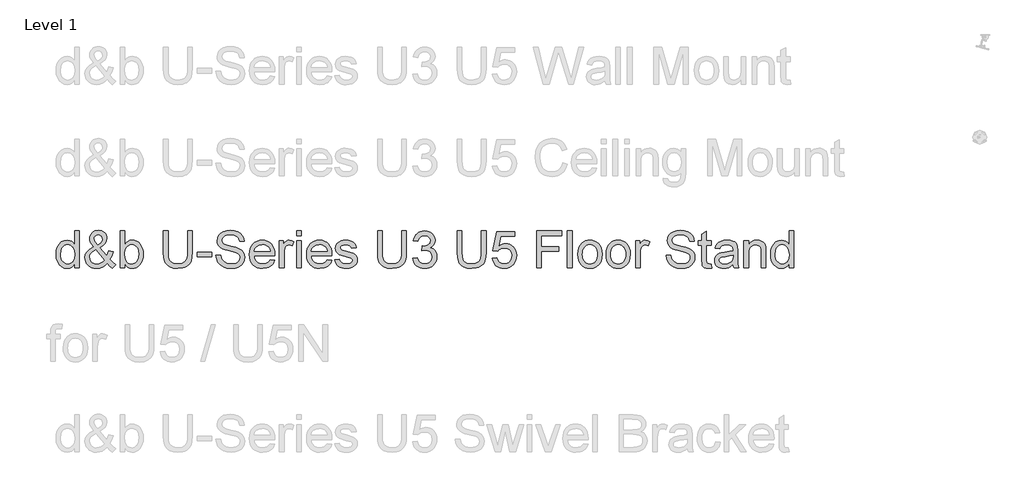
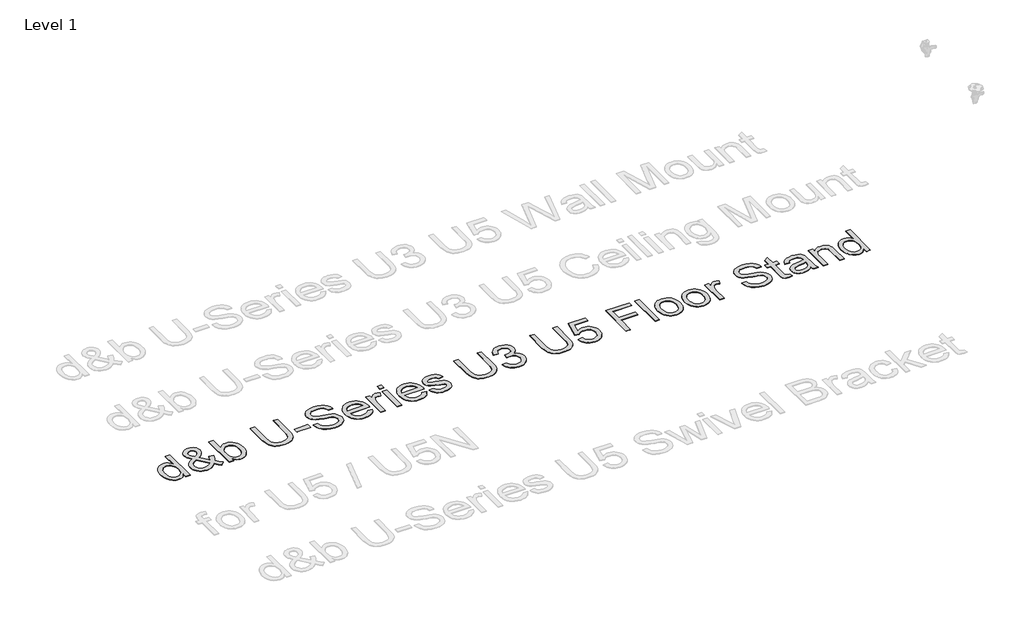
# One storey, part 10 of 29: 1 proxy.
"""IFC4 building model written with IfcOpenShell, lengths in millimetres."""

from ifc_helpers import new_model, si_unit, origin, origin_with_axes, place, context, project, spatial, polyline, outline, extrude, element, save

model = new_model("IFC4")

# Units and contexts
model_context = context("Model", 3, world=origin())
ifc_project = project(units=[si_unit("LENGTHUNIT", "METRE", prefix="MILLI")], contexts=[model_context])

# Site, building, storey
site = spatial("IfcSite", under=ifc_project)
building = spatial("IfcBuilding", under=site)
storey = spatial("IfcBuildingStorey", under=building, Name="Level 1", Elevation=0.0)

# Proxy
placement = place(None, origin())
element("IfcBuildingElementProxy", 1, Name="400mm Arial", ObjectType="400mm Arial", at=placement, inside=storey, context=model_context, shape_type="SweptSolid", body=[
    extrude(outline(polyline([(-20788.4119982, -1835.6363385), (-20788.4119982, -1788.2531375), (-20803.4399777, -1811.7301402), (-20821.6440051, -1828.4994278), (-20843.0240804, -1838.5610004), (-20867.5802036, -1841.9148579), (-20900.051921, -1837.0588156), (-20929.7767862, -1822.4906885), (-20954.9399147, -1799.2282837), (-20973.7264219, -1768.2894079), (-20985.4250694, -1730.9248599), (-20989.3246185, -1688.3854386), (-20985.7316377, -1646.3733147), (-20974.9526952, -1608.4324183), (-20957.0000539, -1576.7209903), (-20931.8859763, -1553.3972718), (-20901.5111863, -1539.049874), (-20867.7764073, -1534.2674081), (-20843.20189, -1537.6887106), (-20821.4723268, -1547.9526183), (-20803.0537016, -1563.6857049), (-20788.4119982, -1583.5145445), (-20788.4119982, -1433.8110979), (-20738.1838431, -1433.8110979), (-20738.1838431, -1835.6363385), (-20788.4119982, -1835.6363385)]), holes=[polyline([(-20939.0964634, -1688.1892348), (-20937.6801177, -1712.5460886), (-20933.4310807, -1733.6226612), (-20926.3493523, -1751.4189528), (-20916.4349325, -1765.9349632), (-20891.7377879, -1785.2487679), (-20877.8625053, -1790.0772191), (-20862.9694159, -1791.6867028), (-20848.0058157, -1790.1507955), (-20834.2133066, -1785.5430735), (-20810.1415614, -1767.1121855), (-20800.6348775, -1753.2031804), (-20793.844389, -1736.0506824), (-20788.4119982, -1692.0152076), (-20793.9424909, -1643.8717172), (-20800.8556067, -1625.336596), (-20810.5339688, -1610.4925575), (-20822.235682, -1599.1188724), (-20835.2188507, -1590.9948117), (-20849.4834751, -1586.1203753), (-20865.0295551, -1584.4955631), (-20880.2169501, -1586.0559959), (-20894.0922327, -1590.7372943), (-20906.6554028, -1598.5394583), (-20917.9064605, -1609.4624879), (-20927.1770868, -1623.7455063), (-20933.7989627, -1641.627637), (-20939.0964634, -1688.1892348)])]), origin_with_axes(), (0.0, 0.0, 1.0), 5.0),
    extrude(outline(polyline([(-20432.4003287, -1785.9967946), (-20457.9313392, -1810.4609473), (-20485.6696416, -1827.9353421), (-20515.664287, -1838.4199789), (-20547.9643262, -1841.9148579), (-20577.2722584, -1839.3274212), (-20603.3918801, -1831.5651111), (-20626.3231911, -1818.6279276), (-20646.0661915, -1800.5158707), (-20658.8991418, -1783.1457092), (-20668.0655348, -1764.7822662), (-20673.5653707, -1745.4255419), (-20675.3986493, -1725.0755362), (-20669.5002746, -1689.881492), (-20651.8051507, -1658.2681659), (-20622.3868538, -1630.2600833), (-20581.3189604, -1605.8817698), (-20603.2324646, -1577.5303307), (-20616.3903773, -1555.0650035), (-20622.975465, -1535.8860888), (-20625.1704942, -1517.3938872), (-20623.4414488, -1499.8397847), (-20618.2543127, -1483.4751673), (-20609.6090858, -1468.300035), (-20597.5057682, -1454.3143878), (-20582.784357, -1442.5973462), (-20566.2848495, -1434.2280308), (-20548.0072457, -1429.2064416), (-20527.9515456, -1427.5325785), (-20508.8032878, -1429.1328652), (-20491.4821772, -1433.9337252), (-20475.9882138, -1441.9351586), (-20462.3213977, -1453.1371654), (-20451.1623105, -1466.5832523), (-20443.1915339, -1481.3169262), (-20438.409068, -1497.3381871), (-20436.8149127, -1514.647035), (-20441.5360649, -1542.6305921), (-20455.6995218, -1568.5049591), (-20479.3052831, -1592.270136), (-20512.353349, -1613.9261227), (-20439.6598668, -1704.4741445), (-20427.2745063, -1678.5997775), (-20417.9793545, -1648.8503868), (-20367.7511994, -1659.7396939), (-20383.2022432, -1706.2645035), (-20403.2640747, -1742.4395664), (-20374.7164319, -1775.7451497), (-20342.6371219, -1803.2627229), (-20380.3082382, -1841.9148579), (-20405.9373505, -1818.4685121), (-20432.4003287, -1785.9967946)]), holes=[polyline([(-20537.7617322, -1582.2392202), (-20511.4949577, -1565.5741659), (-20496.4608468, -1551.091878), (-20489.3975125, -1537.0019976), (-20487.0430678, -1521.5141656), (-20490.1455392, -1503.9661944), (-20499.4529537, -1489.9744158), (-20513.4202068, -1480.8141542), (-20530.5021941, -1477.7607336), (-20547.9520634, -1480.7896287), (-20562.2381476, -1489.876314), (-20571.7662912, -1503.3285323), (-20574.9423391, -1519.4540264), (-20570.6258571, -1537.8481261), (-20557.578309, -1558.3023651), (-20537.7617322, -1582.2392202)]), polyline([(-20466.0492686, -1749.7972063), (-20555.7143735, -1637.8629779), (-20589.9641873, -1659.7151684), (-20610.8966728, -1679.9486782), (-20621.6020389, -1699.2747456), (-20625.1704942, -1718.4046094), (-20620.2899264, -1742.0962099), (-20605.648223, -1766.6707271), (-20594.8692805, -1777.6152165), (-20582.0547244, -1785.4327089), (-20567.2045545, -1790.1232043), (-20550.3187709, -1791.6867028), (-20527.5959264, -1788.7681723), (-20504.1618433, -1780.0125808), (-20482.7388484, -1766.6216762), (-20466.0492686, -1749.7972063)])]), origin_with_axes(), (0.0, 0.0, 1.0), 5.0),
    extrude(outline(polyline([(-20242.1808118, -1835.6363385), (-20292.4089668, -1835.6363385), (-20292.4089668, -1433.8110979), (-20242.1808118, -1433.8110979), (-20242.1808118, -1582.8278314), (-20225.6629102, -1561.5826462), (-20207.011293, -1546.4075139), (-20186.2259603, -1537.3024345), (-20163.306912, -1534.2674081), (-20137.432545, -1537.0019976), (-20112.9806551, -1545.2057661), (-20091.3491937, -1558.3636787), (-20073.9361126, -1575.9607008), (-20060.2876906, -1597.8251541), (-20049.9502065, -1623.7853602), (-20043.4386952, -1652.7621987), (-20041.2681915, -1683.676549), (-20043.5153373, -1719.3488398), (-20050.2567749, -1750.729174), (-20061.4925041, -1777.8175516), (-20077.2225251, -1800.6139726), (-20096.1040685, -1818.6831099), (-20116.7943651, -1831.5896366), (-20139.2934148, -1839.3335526), (-20163.6012176, -1841.9148579), (-20187.274424, -1838.5855258), (-20208.2620918, -1828.5975297), (-20226.5642211, -1811.9508694), (-20242.1808118, -1788.645545), (-20242.1808118, -1835.6363385)]), holes=[polyline([(-20242.1808118, -1686.0309938), (-20238.7472465, -1727.9204903), (-20228.4465506, -1756.2719294), (-20216.2757879, -1771.7658928), (-20202.1307252, -1782.8330095), (-20186.0113625, -1789.4732795), (-20167.9176997, -1791.6867028), (-20152.8958515, -1790.0557593), (-20138.9285984, -1785.1629288), (-20126.0159404, -1777.0082112), (-20114.1578774, -1765.5916066), (-20104.2434577, -1750.9437719), (-20097.1617293, -1733.0953637), (-20092.9126922, -1712.0463822), (-20091.4963465, -1687.7968274), (-20096.9287373, -1641.8361035), (-20103.7192258, -1624.0428776), (-20113.2259097, -1609.7077425), (-20124.6578427, -1598.677414), (-20137.2240785, -1590.798608), (-20150.9246172, -1586.0713243), (-20165.7594586, -1584.4955631), (-20180.7813068, -1586.1265066), (-20194.7485599, -1591.0193372), (-20207.6612179, -1599.1740547), (-20219.5192809, -1610.5906593), (-20229.4337006, -1625.0913413), (-20236.515429, -1642.498291), (-20240.7644661, -1662.8115085), (-20242.1808118, -1686.0309938)])]), origin_with_axes(), (0.0, 0.0, 1.0), 5.0),
    extrude(outline(polyline([(-19557.8221989, -1433.8110979), (-19507.5940438, -1433.8110979), (-19507.5940438, -1665.6258058), (-19511.0030836, -1719.9129256), (-19521.2302031, -1761.7165829), (-19529.4155775, -1778.6698116), (-19540.3355414, -1793.9675712), (-19570.3792376, -1819.5966835), (-19589.5213641, -1829.3608848), (-19611.4348683, -1836.3353143), (-19663.5760097, -1841.9148579), (-19714.576717, -1837.0588156), (-19755.3503048, -1822.4906885), (-19771.9049946, -1811.6902863), (-19785.9090359, -1798.7132489), (-19797.3624287, -1783.5595764), (-19806.2651729, -1766.2292688), (-19817.706303, -1722.6597778), (-19821.520013, -1665.6258058), (-19821.520013, -1433.8110979), (-19771.2918579, -1433.8110979), (-19771.2918579, -1663.8599722), (-19768.8147858, -1708.999093), (-19761.3835695, -1740.4284782), (-19747.9190885, -1762.1948295), (-19727.3422222, -1778.3448491), (-19700.5113621, -1788.3512394), (-19668.2848993, -1791.6867028), (-19640.6017791, -1790.0373652), (-19617.1983529, -1785.0893524), (-19598.0746205, -1776.8426643), (-19583.230582, -1765.297301), (-19572.1144144, -1749.0614423), (-19564.1742947, -1726.7432679), (-19559.4102228, -1698.3427779), (-19557.8221989, -1663.8599722), (-19557.8221989, -1433.8110979)])), origin_with_axes(), (0.0, 0.0, 1.0), 5.0),
    extrude(outline(polyline([(-19451.0873693, -1716.3444702), (-19451.0873693, -1666.1163151), (-19294.1243847, -1666.1163151), (-19294.1243847, -1716.3444702), (-19451.0873693, -1716.3444702)])), origin_with_axes(), (0.0, 0.0, 1.0), 5.0),
    extrude(outline(polyline([(-19250.174749, -1697.5089121), (-19199.946594, -1697.5089121), (-19194.1831094, -1725.3821046), (-19183.7597862, -1747.7861181), (-19167.499402, -1765.5670812), (-19144.2247344, -1779.5711224), (-19115.7751935, -1788.6578077), (-19083.9901891, -1791.6867028), (-19056.006632, -1789.3935717), (-19031.5056911, -1782.5141784), (-19011.6523261, -1771.6248713), (-18997.6114966, -1757.301999), (-18989.2605753, -1740.8576738), (-18986.4769349, -1723.6040082), (-18988.5615995, -1706.7918011), (-18994.8155934, -1692.2604623), (-19007.519785, -1679.862839), (-19028.9550426, -1669.4517786), (-19102.0899832, -1650.2728639), (-19150.0985836, -1637.580935), (-19180.8167302, -1625.5021429), (-19205.8204431, -1608.6040966), (-19223.5400926, -1588.1253322), (-19234.0983058, -1564.5073081), (-19237.6177103, -1538.1914827), (-19233.26444, -1508.7731858), (-19220.2046292, -1481.3414517), (-19198.7816343, -1458.0913096), (-19169.338812, -1441.2177887), (-19133.997615, -1430.9538811), (-19094.8794961, -1427.5325785), (-19052.4994903, -1431.1132966), (-19015.4169852, -1441.8554509), (-18984.956356, -1459.5383121), (-18962.4419779, -1483.9411511), (-18948.1926819, -1513.543389), (-18942.5272992, -1546.8244468), (-18992.7554543, -1546.8244468), (-19001.9770296, -1516.854327), (-19010.3402136, -1504.996264), (-19021.2049952, -1495.2228656), (-19051.2486915, -1482.1262666), (-19092.9174588, -1477.7607336), (-19135.5672448, -1482.0772157), (-19151.8705486, -1487.4728183), (-19164.8261262, -1495.0266619), (-19181.7486979, -1514.0829493), (-19187.3895552, -1536.7199547), (-19183.3919042, -1556.0214967), (-19171.3989511, -1571.5461169), (-19143.047512, -1585.4275309), (-19089.3857917, -1599.6032504), (-19034.0072887, -1613.0677314), (-19000.5055016, -1624.8154298), (-18971.8720197, -1643.0378513), (-18951.8960273, -1665.5277039), (-18940.1605917, -1692.0397331), (-18936.2487798, -1722.328684), (-18940.7492029, -1753.2920853), (-18954.2504721, -1782.4160765), (-18976.2007645, -1807.4811031), (-19006.048257, -1826.2676104), (-19041.941277, -1838.003046), (-19082.0281518, -1841.9148579), (-19131.2385, -1837.6964777), (-19171.7423077, -1825.041337), (-19204.0055586, -1803.9003851), (-19228.4942368, -1774.2245708), (-19244.2150607, -1738.0740334), (-19250.174749, -1697.5089121)])), origin_with_axes(), (0.0, 0.0, 1.0), 5.0),
    extrude(outline(polyline([(-18660.5825381, -1747.7370671), (-18611.3354017, -1754.0155865), (-18618.8861796, -1773.7401928), (-18629.0795766, -1791.1226171), (-18641.9155925, -1806.1628593), (-18657.3942275, -1818.8609195), (-18675.3560659, -1828.9470176), (-18695.6416922, -1836.1513733), (-18743.1843087, -1841.9148579), (-18774.3500451, -1839.4285887), (-18802.1190044, -1831.9697813), (-18826.4911866, -1819.5384355), (-18847.4665916, -1802.1345515), (-18864.3339811, -1780.2425071), (-18876.3821165, -1754.3466803), (-18883.6109977, -1724.4470712), (-18886.0206247, -1690.5436796), (-18883.5864722, -1655.4906568), (-18876.2840146, -1624.5947006), (-18864.1132519, -1597.8558109), (-18847.0741842, -1575.2739878), (-18826.1539614, -1557.3336092), (-18802.3397336, -1544.519053), (-18775.6315007, -1536.8303193), (-18746.0292628, -1534.2674081), (-18717.3804525, -1536.8241879), (-18691.472363, -1544.4945275), (-18668.3049943, -1557.2784269), (-18647.8783465, -1575.1758859), (-18631.2040951, -1597.7086581), (-18619.2939155, -1624.3984969), (-18612.1478077, -1655.2454022), (-18609.7657718, -1690.249374), (-18610.0600774, -1703.7874314), (-18835.7924697, -1703.7874314), (-18832.8831362, -1723.8308688), (-18827.0981918, -1741.3849713), (-18818.4376365, -1756.449739), (-18806.9014703, -1769.0251719), (-18793.1273553, -1778.9395917), (-18777.7529536, -1786.0213201), (-18742.2032901, -1791.6867028), (-18715.4705318, -1789.0624779), (-18692.9561537, -1781.1898032), (-18674.6601558, -1767.5781694), (-18660.5825381, -1747.7370671)]), holes=[polyline([(-18835.7924697, -1653.5592764), (-18659.9939269, -1653.5592764), (-18666.7874811, -1627.0227218), (-18680.1048093, -1608.0400108), (-18693.8022823, -1597.739315), (-18709.3882161, -1590.3816751), (-18726.8626109, -1585.9670911), (-18746.2254666, -1584.4955631), (-18780.0828729, -1589.1921899), (-18808.0786927, -1603.2820704), (-18827.5396502, -1625.2446255), (-18835.7924697, -1653.5592764)])]), origin_with_axes(), (0.0, 0.0, 1.0), 5.0),
    extrude(outline(polyline([(-18559.5376168, -1835.6363385), (-18559.5376168, -1540.5459274), (-18515.5879811, -1540.5459274), (-18515.5879811, -1584.2012575), (-18499.3521223, -1558.8909763), (-18484.3915879, -1543.9794927), (-18469.3820025, -1536.6954292), (-18452.998991, -1534.2674081), (-18427.9830153, -1538.1424317), (-18402.5746321, -1549.7675028), (-18419.3500511, -1594.796259), (-18437.0083869, -1587.0707371), (-18454.6667227, -1584.4955631), (-18469.6640453, -1586.9726352), (-18483.0672127, -1594.4038515), (-18493.8952061, -1606.2251263), (-18501.1670069, -1621.8723738), (-18507.273848, -1649.9295073), (-18509.3094617, -1680.5372893), (-18509.3094617, -1835.6363385), (-18559.5376168, -1835.6363385)])), origin_with_axes(), (0.0, 0.0, 1.0), 5.0),
    extrude(outline(polyline([(-18371.1820352, -1484.039253), (-18371.1820352, -1433.8110979), (-18320.9538802, -1433.8110979), (-18320.9538802, -1484.039253), (-18371.1820352, -1484.039253)])), origin_with_axes(), (0.0, 0.0, 1.0), 5.0),
    extrude(outline(polyline([(-18371.1820352, -1835.6363385), (-18371.1820352, -1540.5459274), (-18320.9538802, -1540.5459274), (-18320.9538802, -1835.6363385), (-18371.1820352, -1835.6363385)])), origin_with_axes(), (0.0, 0.0, 1.0), 5.0),
    extrude(outline(polyline([(-18039.009119, -1747.7370671), (-17989.7619826, -1754.0155865), (-17997.3127606, -1773.7401928), (-18007.5061575, -1791.1226171), (-18020.3421735, -1806.1628593), (-18035.8208084, -1818.8609195), (-18053.7826468, -1828.9470176), (-18074.0682732, -1836.1513733), (-18121.6108897, -1841.9148579), (-18152.7766261, -1839.4285887), (-18180.5455853, -1831.9697813), (-18204.9177675, -1819.5384355), (-18225.8931726, -1802.1345515), (-18242.7605621, -1780.2425071), (-18254.8086974, -1754.3466803), (-18262.0375786, -1724.4470712), (-18264.4472057, -1690.5436796), (-18262.0130532, -1655.4906568), (-18254.7105956, -1624.5947006), (-18242.5398329, -1597.8558109), (-18225.5007651, -1575.2739878), (-18204.5805423, -1557.3336092), (-18180.7663145, -1544.519053), (-18154.0580817, -1536.8303193), (-18124.4558438, -1534.2674081), (-18095.8070334, -1536.8241879), (-18069.8989439, -1544.4945275), (-18046.7315753, -1557.2784269), (-18026.3049275, -1575.1758859), (-18009.630676, -1597.7086581), (-17997.7204965, -1624.3984969), (-17990.5743887, -1655.2454022), (-17988.1923528, -1690.249374), (-17988.4866584, -1703.7874314), (-18214.2190506, -1703.7874314), (-18211.3097172, -1723.8308688), (-18205.5247728, -1741.3849713), (-18196.8642175, -1756.449739), (-18185.3280513, -1769.0251719), (-18171.5539362, -1778.9395917), (-18156.1795345, -1786.0213201), (-18120.629871, -1791.6867028), (-18093.8971127, -1789.0624779), (-18071.3827346, -1781.1898032), (-18053.0867367, -1767.5781694), (-18039.009119, -1747.7370671)]), holes=[polyline([(-18214.2190506, -1653.5592764), (-18038.4205079, -1653.5592764), (-18045.214062, -1627.0227218), (-18058.5313903, -1608.0400108), (-18072.2288632, -1597.739315), (-18087.8147971, -1590.3816751), (-18105.2891918, -1585.9670911), (-18124.6520475, -1584.4955631), (-18158.5094538, -1589.1921899), (-18186.5052736, -1603.2820704), (-18205.9662312, -1625.2446255), (-18214.2190506, -1653.5592764)])]), origin_with_axes(), (0.0, 0.0, 1.0), 5.0),
    extrude(outline(polyline([(-17956.7997559, -1747.7370671), (-17906.5716008, -1741.4585477), (-17898.6498752, -1762.9428563), (-17883.3214587, -1778.7372566), (-17860.4882495, -1788.4493413), (-17830.0521458, -1791.6867028), (-17799.983924, -1788.7191214), (-17778.8429721, -1779.8163771), (-17766.3349842, -1766.9159818), (-17762.1656549, -1751.9554473), (-17766.3595097, -1739.1531539), (-17778.9410739, -1729.3920183), (-17830.640757, -1715.069146), (-17906.2772952, -1690.4946287), (-17925.4194217, -1678.1460564), (-17939.2885729, -1661.7998331), (-17947.7130706, -1642.498291), (-17950.5212365, -1621.2837627), (-17948.2648936, -1601.8228051), (-17941.4958649, -1583.857901), (-17930.827287, -1568.1002889), (-17916.8722966, -1555.2612073), (-17884.9401395, -1540.3987746), (-17864.0567049, -1535.8002497), (-17841.7262678, -1534.2674081), (-17809.0338211, -1536.7322174), (-17780.6088056, -1544.1266455), (-17757.751071, -1555.7271911), (-17741.7604669, -1570.8103529), (-17731.1654655, -1590.4920397), (-17724.4945386, -1615.8881601), (-17774.7226937, -1622.1666794), (-17781.0625268, -1606.3600164), (-17793.6073028, -1594.4529025), (-17812.4796492, -1586.984898), (-17837.8021932, -1584.4955631), (-17866.6441416, -1586.8745334), (-17885.8721072, -1594.0114441), (-17896.6878378, -1604.3121399), (-17900.2930814, -1616.1824657), (-17894.3088676, -1630.7996436), (-17875.5714113, -1641.8851544), (-17832.3084887, -1652.5782577), (-17758.5849369, -1676.2208073), (-17739.1117166, -1687.5270473), (-17724.3473858, -1703.0026165), (-17715.0399714, -1722.696566), (-17711.9374999, -1746.6579466), (-17715.5795316, -1771.4286676), (-17726.5056269, -1794.7278606), (-17744.2988527, -1814.7283785), (-17768.5422762, -1829.6030738), (-17797.825683, -1838.8369119), (-17830.7388588, -1841.9148579), (-17857.7720541, -1840.4310672), (-17881.3839468, -1835.979695), (-17901.574537, -1828.5607415), (-17918.3438246, -1818.1742065), (-17932.0412976, -1804.869141), (-17943.0164438, -1788.6945959), (-17951.2692632, -1769.6505713), (-17956.7997559, -1747.7370671)])), origin_with_axes(), (0.0, 0.0, 1.0), 5.0),
    extrude(outline(polyline([(-17228.4915073, -1433.8110979), (-17178.2633522, -1433.8110979), (-17178.2633522, -1665.6258058), (-17181.672392, -1719.9129256), (-17191.8995115, -1761.7165829), (-17200.0848859, -1778.6698116), (-17211.0048498, -1793.9675712), (-17241.048546, -1819.5966835), (-17260.1906725, -1829.3608848), (-17282.1041767, -1836.3353143), (-17334.2453182, -1841.9148579), (-17385.2460254, -1837.0588156), (-17426.0196132, -1822.4906885), (-17442.574303, -1811.6902863), (-17456.5783443, -1798.7132489), (-17468.0317371, -1783.5595764), (-17476.9344814, -1766.2292688), (-17488.3756114, -1722.6597778), (-17492.1893214, -1665.6258058), (-17492.1893214, -1433.8110979), (-17441.9611663, -1433.8110979), (-17441.9611663, -1663.8599722), (-17439.4840942, -1708.999093), (-17432.0528779, -1740.4284782), (-17418.5883969, -1762.1948295), (-17398.0115307, -1778.3448491), (-17371.1806705, -1788.3512394), (-17338.9542077, -1791.6867028), (-17311.2710876, -1790.0373652), (-17287.8676613, -1785.0893524), (-17268.7439289, -1776.8426643), (-17253.8998904, -1765.297301), (-17242.7837228, -1749.0614423), (-17234.8436031, -1726.7432679), (-17230.0795312, -1698.3427779), (-17228.4915073, -1663.8599722), (-17228.4915073, -1433.8110979)])), origin_with_axes(), (0.0, 0.0, 1.0), 5.0),
    extrude(outline(polyline([(-17109.199639, -1728.901509), (-17058.9714839, -1722.6229896), (-17047.7265576, -1754.1872648), (-17031.2577069, -1775.499895), (-17008.7555916, -1787.6400009), (-16979.4108711, -1791.6867028), (-16944.9771163, -1786.119422), (-16930.7032949, -1779.1603209), (-16918.3915108, -1769.4175794), (-16901.3953626, -1744.4997056), (-16895.7299799, -1714.284331), (-16901.3463117, -1685.6017981), (-16918.1953071, -1662.3393933), (-16943.7017921, -1646.9251377), (-16975.2905927, -1641.7870525), (-17010.5091624, -1647.280757), (-17004.9173561, -1597.0526019), (-16996.8730031, -1597.6412131), (-16966.7802559, -1594.0359695), (-16939.8758193, -1583.2202389), (-16928.8025713, -1575.0409959), (-16920.8931084, -1564.924241), (-16916.1474306, -1552.8699743), (-16914.5655381, -1538.8781957), (-16919.1518003, -1517.1854208), (-16932.9105869, -1499.5883986), (-16953.9043861, -1487.9265394), (-16980.195686, -1484.039253), (-17006.5360369, -1487.9633276), (-17028.0693963, -1499.7355514), (-17043.7902202, -1519.3559245), (-17052.6929645, -1546.8244468), (-17102.9211196, -1540.5459274), (-17096.9675626, -1516.5661527), (-17088.1322634, -1495.4435948), (-17076.4152218, -1477.1782538), (-17061.816438, -1461.7701295), (-17044.7957643, -1449.5380532), (-17025.8130534, -1440.8008558), (-17004.8683051, -1435.5585374), (-16981.9615196, -1433.8110979), (-16950.3849817, -1437.2569259), (-16921.3836177, -1447.59441), (-16896.9317278, -1463.9038451), (-16879.0036119, -1485.2655263), (-16868.0039402, -1509.8768318), (-16864.337383, -1535.9351398), (-16867.8199992, -1560.2153515), (-16878.2678479, -1582.2392202), (-16895.5337762, -1601.001202), (-16919.4706313, -1615.4957526), (-16888.0289835, -1628.1999442), (-16864.7297904, -1649.8314055), (-16850.3088162, -1679.2129142), (-16845.5018248, -1715.1672478), (-16847.9053205, -1740.6492074), (-16855.1158076, -1764.1200786), (-16867.1332861, -1785.5798617), (-16883.9577561, -1805.0285565), (-16904.4549146, -1821.1663134), (-16927.4904588, -1832.6932825), (-16953.0643889, -1839.6094641), (-16981.1767046, -1841.9148579), (-17006.5850878, -1839.9466892), (-17029.737128, -1834.0421832), (-17050.6328253, -1824.2013398), (-17069.2721798, -1810.4241591), (-17084.9010332, -1793.5199814), (-17096.7652275, -1774.2981472), (-17104.8647628, -1752.7586564), (-17109.199639, -1728.901509)])), origin_with_axes(), (0.0, 0.0, 1.0), 5.0),
    extrude(outline(polyline([(-16362.0558322, -1433.8110979), (-16311.8276772, -1433.8110979), (-16311.8276772, -1665.6258058), (-16315.236717, -1719.9129256), (-16325.4638364, -1761.7165829), (-16333.6492108, -1778.6698116), (-16344.5691747, -1793.9675712), (-16374.612871, -1819.5966835), (-16393.7549975, -1829.3608848), (-16415.6685017, -1836.3353143), (-16467.8096431, -1841.9148579), (-16518.8103504, -1837.0588156), (-16559.5839382, -1822.4906885), (-16576.138628, -1811.6902863), (-16590.1426692, -1798.7132489), (-16601.596062, -1783.5595764), (-16610.4988063, -1766.2292688), (-16621.9399364, -1722.6597778), (-16625.7536464, -1665.6258058), (-16625.7536464, -1433.8110979), (-16575.5254913, -1433.8110979), (-16575.5254913, -1663.8599722), (-16573.0484192, -1708.999093), (-16565.6172029, -1740.4284782), (-16552.1527219, -1762.1948295), (-16531.5758556, -1778.3448491), (-16504.7449954, -1788.3512394), (-16472.5185327, -1791.6867028), (-16444.8354125, -1790.0373652), (-16421.4319863, -1785.0893524), (-16402.3082539, -1776.8426643), (-16387.4642154, -1765.297301), (-16376.3480477, -1749.0614423), (-16368.407928, -1726.7432679), (-16363.6438562, -1698.3427779), (-16362.0558322, -1663.8599722), (-16362.0558322, -1433.8110979)])), origin_with_axes(), (0.0, 0.0, 1.0), 5.0),
    extrude(outline(polyline([(-16242.7639639, -1728.901509), (-16192.5358089, -1722.6229896), (-16183.3142335, -1752.7770505), (-16167.2255276, -1774.3717236), (-16144.3432675, -1787.357958), (-16114.7410296, -1791.6867028), (-16095.6111659, -1790.1814523), (-16078.737645, -1785.6657008), (-16064.1204671, -1778.1394483), (-16051.759632, -1767.6026949), (-16041.9310514, -1754.5766066), (-16034.9106367, -1739.5823496), (-16029.2943049, -1703.6893296), (-16034.5550174, -1669.8932369), (-16041.1309081, -1655.9750348), (-16050.337155, -1644.0433954), (-16062.204415, -1634.4723322), (-16076.763345, -1627.6358584), (-16113.9562147, -1622.1666794), (-16138.3222655, -1624.3494459), (-16158.0530032, -1630.8977455), (-16173.8106153, -1640.9286612), (-16186.2572895, -1653.5592764), (-16236.4854445, -1647.280757), (-16192.5358089, -1440.0896173), (-15997.9017079, -1440.0896173), (-15997.9017079, -1490.3177724), (-16151.9216366, -1490.3177724), (-16173.504047, -1600.9766765), (-16155.7782662, -1588.272485), (-16137.6232897, -1579.1980624), (-16119.0391176, -1573.7534089), (-16100.0257498, -1571.9385244), (-16075.5615971, -1574.1887359), (-16053.0840072, -1580.9393705), (-16032.5929801, -1592.1904282), (-16014.0885157, -1607.941909), (-15998.7662306, -1627.2311882), (-15987.8217413, -1649.0956415), (-15981.2550477, -1673.5352687), (-15979.0661498, -1700.5500699), (-15981.0343185, -1726.5715897), (-15986.9388245, -1750.778225), (-15996.7796679, -1773.1699757), (-16010.5568486, -1793.746842), (-16031.4280204, -1814.8203489), (-16055.7818085, -1829.8728539), (-16083.6182128, -1838.9043569), (-16114.9372333, -1841.9148579), (-16140.8575856, -1839.9804117), (-16164.2702089, -1834.1770733), (-16185.1751033, -1824.5048425), (-16203.5722687, -1810.9637194), (-16218.8792254, -1794.2281543), (-16230.5134935, -1774.9725975), (-16238.475073, -1753.1970491), (-16242.7639639, -1728.901509)])), origin_with_axes(), (0.0, 0.0, 1.0), 5.0),
    extrude(outline(polyline([(-15759.3179713, -1835.6363385), (-15759.3179713, -1433.8110979), (-15489.3416378, -1433.8110979), (-15489.3416378, -1484.039253), (-15709.0898163, -1484.039253), (-15709.0898163, -1603.3311213), (-15520.7342347, -1603.3311213), (-15520.7342347, -1653.5592764), (-15709.0898163, -1653.5592764), (-15709.0898163, -1835.6363385), (-15759.3179713, -1835.6363385)])), origin_with_axes(), (0.0, 0.0, 1.0), 5.0),
    extrude(outline(polyline([(-15426.556444, -1835.6363385), (-15426.556444, -1433.8110979), (-15376.3282889, -1433.8110979), (-15376.3282889, -1835.6363385), (-15426.556444, -1835.6363385)])), origin_with_axes(), (0.0, 0.0, 1.0), 5.0),
    extrude(outline(polyline([(-15313.543095, -1688.091133), (-15310.8268996, -1649.874325), (-15302.6783135, -1616.9427551), (-15289.0973365, -1589.2964232), (-15270.0839687, -1566.9353292), (-15250.9418422, -1552.6431137), (-15229.8131529, -1542.4343884), (-15206.6979009, -1536.3091531), (-15181.5960861, -1534.2674081), (-15153.8853748, -1536.7536772), (-15128.8295453, -1544.2124847), (-15106.4285974, -1556.6438304), (-15086.6825314, -1574.0477145), (-15070.5662343, -1595.8355256), (-15059.0545935, -1621.4186527), (-15052.1476091, -1650.7970957), (-15049.8452809, -1683.9708546), (-15053.9165083, -1734.7140445), (-15066.1301906, -1773.341654), (-15086.1307084, -1802.2694415), (-15113.5624425, -1823.9131656), (-15146.1445245, -1837.4144348), (-15181.5960861, -1841.9148579), (-15209.7114676, -1839.4377858), (-15235.0002891, -1832.0065695), (-15257.4625506, -1819.621209), (-15277.0982521, -1802.2817043), (-15293.0428709, -1780.282361), (-15304.4318843, -1753.9174846), (-15311.2652924, -1723.1870753), (-15313.543095, -1688.091133)]), holes=[polyline([(-15263.31494, -1687.9930311), (-15261.8618061, -1712.3560162), (-15257.5024044, -1733.450983), (-15250.236735, -1751.2779313), (-15240.0647979, -1765.8368613), (-15227.6917001, -1777.146167), (-15213.8225489, -1785.2242424), (-15198.4573442, -1790.0710877), (-15181.5960861, -1791.6867028), (-15164.8206671, -1790.0618907), (-15149.5167761, -1785.1874542), (-15135.6844131, -1777.0633935), (-15123.3235781, -1765.6897085), (-15113.1516409, -1750.9866914), (-15105.8859715, -1732.8746345), (-15101.5265699, -1711.3535378), (-15100.073436, -1686.4234013), (-15101.5357669, -1662.8329683), (-15105.9227597, -1642.2898246), (-15113.2344144, -1624.79397), (-15123.4707309, -1610.3454047), (-15135.8775512, -1599.036099), (-15149.7007171, -1590.9580235), (-15164.9402288, -1586.1111782), (-15181.5960861, -1584.4955631), (-15198.4573442, -1586.1050469), (-15213.8225489, -1590.9334981), (-15227.6917001, -1598.9809167), (-15240.0647979, -1610.2473028), (-15250.236735, -1624.7633132), (-15257.5024044, -1642.5596047), (-15261.8618061, -1663.6361773), (-15263.31494, -1687.9930311)])]), origin_with_axes(), (0.0, 0.0, 1.0), 5.0),
    extrude(outline(polyline([(-15005.8956452, -1688.091133), (-15003.1794498, -1649.874325), (-14995.0308636, -1616.9427551), (-14981.4498866, -1589.2964232), (-14962.4365189, -1566.9353292), (-14943.2943924, -1552.6431137), (-14922.1657031, -1542.4343884), (-14899.0504511, -1536.3091531), (-14873.9486363, -1534.2674081), (-14846.237925, -1536.7536772), (-14821.1820954, -1544.2124847), (-14798.7811476, -1556.6438304), (-14779.0350815, -1574.0477145), (-14762.9187844, -1595.8355256), (-14751.4071437, -1621.4186527), (-14744.5001592, -1650.7970957), (-14742.1978311, -1683.9708546), (-14746.2690585, -1734.7140445), (-14758.4827407, -1773.341654), (-14778.4832585, -1802.2694415), (-14805.9149926, -1823.9131656), (-14838.4970747, -1837.4144348), (-14873.9486363, -1841.9148579), (-14902.0640178, -1839.4377858), (-14927.3528392, -1832.0065695), (-14949.8151007, -1819.621209), (-14969.4508022, -1802.2817043), (-14985.395421, -1780.282361), (-14996.7844345, -1753.9174846), (-15003.6178425, -1723.1870753), (-15005.8956452, -1688.091133)]), holes=[polyline([(-14955.6674901, -1687.9930311), (-14954.2143563, -1712.3560162), (-14949.8549546, -1733.450983), (-14942.5892852, -1751.2779313), (-14932.417348, -1765.8368613), (-14920.0442503, -1777.146167), (-14906.1750991, -1785.2242424), (-14890.8098944, -1790.0710877), (-14873.9486363, -1791.6867028), (-14857.1732173, -1790.0618907), (-14841.8693263, -1785.1874542), (-14828.0369633, -1777.0633935), (-14815.6761282, -1765.6897085), (-14805.5041911, -1750.9866914), (-14798.2385217, -1732.8746345), (-14793.87912, -1711.3535378), (-14792.4259861, -1686.4234013), (-14793.8883171, -1662.8329683), (-14798.2753099, -1642.2898246), (-14805.5869645, -1624.79397), (-14815.823281, -1610.3454047), (-14828.2301013, -1599.036099), (-14842.0532673, -1590.9580235), (-14857.2927789, -1586.1111782), (-14873.9486363, -1584.4955631), (-14890.8098944, -1586.1050469), (-14906.1750991, -1590.9334981), (-14920.0442503, -1598.9809167), (-14932.417348, -1610.2473028), (-14942.5892852, -1624.7633132), (-14949.8549546, -1642.5596047), (-14954.2143563, -1663.6361773), (-14955.6674901, -1687.9930311)])]), origin_with_axes(), (0.0, 0.0, 1.0), 5.0),
    extrude(outline(polyline([(-14685.6911566, -1835.6363385), (-14685.6911566, -1540.5459274), (-14641.7415209, -1540.5459274), (-14641.7415209, -1584.2012575), (-14625.5056622, -1558.8909763), (-14610.5451277, -1543.9794927), (-14595.5355423, -1536.6954292), (-14579.1525308, -1534.2674081), (-14554.1365551, -1538.1424317), (-14528.728172, -1549.7675028), (-14545.503591, -1594.796259), (-14563.1619268, -1587.0707371), (-14580.8202625, -1584.4955631), (-14595.8175852, -1586.9726352), (-14609.2207525, -1594.4038515), (-14620.0487459, -1606.2251263), (-14627.3205467, -1621.8723738), (-14633.4273878, -1649.9295073), (-14635.4630015, -1680.5372893), (-14635.4630015, -1835.6363385), (-14685.6911566, -1835.6363385)])), origin_with_axes(), (0.0, 0.0, 1.0), 5.0),
    extrude(outline(polyline([(-14352.9296292, -1697.5089121), (-14302.7014742, -1697.5089121), (-14296.9379896, -1725.3821046), (-14286.5146664, -1747.7861181), (-14270.2542822, -1765.5670812), (-14246.9796146, -1779.5711224), (-14218.5300737, -1788.6578077), (-14186.7450693, -1791.6867028), (-14158.7615122, -1789.3935717), (-14134.2605713, -1782.5141784), (-14114.4072063, -1771.6248713), (-14100.3663768, -1757.301999), (-14092.0154555, -1740.8576738), (-14089.2318151, -1723.6040082), (-14091.3164797, -1706.7918011), (-14097.5704737, -1692.2604623), (-14110.2746652, -1679.862839), (-14131.7099228, -1669.4517786), (-14204.8448634, -1650.2728639), (-14252.8534638, -1637.580935), (-14283.5716104, -1625.5021429), (-14308.5753234, -1608.6040966), (-14326.2949728, -1588.1253322), (-14336.8531861, -1564.5073081), (-14340.3725905, -1538.1914827), (-14336.0193202, -1508.7731858), (-14322.9595094, -1481.3414517), (-14301.5365145, -1458.0913096), (-14272.0936922, -1441.2177887), (-14236.7524952, -1430.9538811), (-14197.6343763, -1427.5325785), (-14155.2543705, -1431.1132966), (-14118.1718654, -1441.8554509), (-14087.7112362, -1459.5383121), (-14065.1968581, -1483.9411511), (-14050.9475621, -1513.543389), (-14045.2821794, -1546.8244468), (-14095.5103345, -1546.8244468), (-14104.7319098, -1516.854327), (-14113.0950939, -1504.996264), (-14123.9598754, -1495.2228656), (-14154.0035717, -1482.1262666), (-14195.672339, -1477.7607336), (-14238.322125, -1482.0772157), (-14254.6254288, -1487.4728183), (-14267.5810064, -1495.0266619), (-14284.5035781, -1514.0829493), (-14290.1444354, -1536.7199547), (-14286.1467844, -1556.0214967), (-14274.1538313, -1571.5461169), (-14245.8023922, -1585.4275309), (-14192.1406719, -1599.6032504), (-14136.7621689, -1613.0677314), (-14103.2603818, -1624.8154298), (-14074.6268999, -1643.0378513), (-14054.6509076, -1665.5277039), (-14042.9154719, -1692.0397331), (-14039.00366, -1722.328684), (-14043.5040831, -1753.2920853), (-14057.0053523, -1782.4160765), (-14078.9556447, -1807.4811031), (-14108.8031372, -1826.2676104), (-14144.6961572, -1838.003046), (-14184.783032, -1841.9148579), (-14233.9933802, -1837.6964777), (-14274.4971879, -1825.041337), (-14306.7604388, -1803.9003851), (-14331.249117, -1774.2245708), (-14346.9699409, -1738.0740334), (-14352.9296292, -1697.5089121)])), origin_with_axes(), (0.0, 0.0, 1.0), 5.0),
    extrude(outline(polyline([(-13863.2051173, -1793.746842), (-13856.9265979, -1837.1078665), (-13894.4996123, -1841.9148579), (-13918.6081457, -1839.8301933), (-13936.5853126, -1833.5761993), (-13949.2895041, -1823.9376911), (-13957.5791118, -1811.6994834), (-13962.1408485, -1790.6811587), (-13963.6614274, -1754.7022996), (-13963.6614274, -1590.7740825), (-14001.3325437, -1590.7740825), (-14001.3325437, -1540.5459274), (-13963.6614274, -1540.5459274), (-13963.6614274, -1468.8334639), (-13913.4332723, -1439.3048024), (-13913.4332723, -1540.5459274), (-13863.2051173, -1540.5459274), (-13863.2051173, -1590.7740825), (-13913.4332723, -1590.7740825), (-13913.4332723, -1753.2307716), (-13910.784522, -1779.1296641), (-13902.2006088, -1788.3021885), (-13885.0818332, -1791.6867028), (-13863.2051173, -1793.746842)])), origin_with_axes(), (0.0, 0.0, 1.0), 5.0),
    extrude(outline(polyline([(-13624.6213807, -1797.9652222), (-13648.6195495, -1818.5420885), (-13673.3289568, -1832.0065695), (-13699.3136884, -1839.4377858), (-13727.13783, -1841.9148579), (-13749.5019896, -1840.4249358), (-13769.1131656, -1835.9551696), (-13785.9713581, -1828.5055592), (-13800.0765669, -1818.0761046), (-13811.2141943, -1805.3289935), (-13819.1696424, -1790.9264134), (-13823.9429113, -1774.8683643), (-13825.534001, -1757.1548462), (-13823.1305053, -1736.3327253), (-13815.9200181, -1717.4235907), (-13804.7977192, -1701.2367829), (-13790.6587878, -1688.5816423), (-13774.0427844, -1679.0167104), (-13755.4892691, -1672.1005289), (-13712.0301427, -1664.5466853), (-13660.6738162, -1656.6004342), (-13624.9156863, -1647.280757), (-13624.6213807, -1636.0971443), (-13628.0794714, -1613.6808681), (-13638.4537437, -1599.0146392), (-13661.6548348, -1588.1253322), (-13693.9793995, -1584.4955631), (-13723.9004684, -1586.9113216), (-13744.7961657, -1594.1585969), (-13759.0454617, -1607.5617642), (-13769.0273265, -1628.4451988), (-13819.2554816, -1622.1666794), (-13810.5366783, -1594.6981571), (-13797.5259184, -1573.1157468), (-13779.0091913, -1556.6101079), (-13753.7724864, -1544.3719002), (-13722.907187, -1536.7935311), (-13687.5046764, -1534.2674081), (-13653.5491682, -1536.4992255), (-13626.6324689, -1543.1946778), (-13606.3376455, -1553.2623817), (-13592.2477651, -1565.610954), (-13582.9035624, -1580.8780568), (-13576.8457722, -1599.7013523), (-13574.3932256, -1643.650988), (-13574.3932256, -1706.1418762), (-13571.8425771, -1793.4034855), (-13561.8361868, -1835.6363385), (-13612.0643419, -1835.6363385), (-13620.1086948, -1818.1742065), (-13624.6213807, -1797.9652222)]), holes=[polyline([(-13624.6213807, -1697.5089121), (-13658.3684223, -1705.8720961), (-13705.6535215, -1712.9109049), (-13748.8673932, -1721.0533597), (-13760.1123195, -1726.6206406), (-13768.4387153, -1734.2971116), (-13773.5890632, -1743.4941615), (-13775.3058459, -1753.6231791), (-13771.5657123, -1768.5591881), (-13760.3453114, -1780.7973958), (-13741.889898, -1788.9643761), (-13716.4447267, -1791.6867028), (-13689.4667137, -1788.6823332), (-13665.6279604, -1779.6692243), (-13646.3018929, -1766.3886843), (-13632.8619373, -1750.5820212), (-13626.902249, -1734.2971116), (-13624.9156863, -1711.7336825), (-13624.6213807, -1697.5089121)])]), origin_with_axes(), (0.0, 0.0, 1.0), 5.0),
    extrude(outline(polyline([(-13505.3295124, -1835.6363385), (-13505.3295124, -1540.5459274), (-13455.1013573, -1540.5459274), (-13455.1013573, -1581.7487109), (-13437.651488, -1560.9756409), (-13416.694477, -1546.1377338), (-13392.2303243, -1537.2349895), (-13364.2590299, -1534.2674081), (-13339.5005717, -1536.658641), (-13316.826778, -1543.8323399), (-13297.9176435, -1554.8933253), (-13284.4531625, -1568.9464175), (-13275.3174262, -1585.9548284), (-13269.3945261, -1605.8817698), (-13266.7457757, -1654.4421932), (-13266.7457757, -1835.6363385), (-13316.9739308, -1835.6363385), (-13316.9739308, -1661.2112219), (-13318.4209333, -1635.238753), (-13322.7619409, -1616.7710768), (-13330.7695056, -1603.5395878), (-13343.2161798, -1593.2756801), (-13359.1699957, -1586.6905924), (-13377.6989855, -1584.4955631), (-13407.1172824, -1589.4251819), (-13432.1945717, -1604.2140381), (-13442.2162904, -1616.2866989), (-13449.3746609, -1632.7862064), (-13453.6696832, -1653.7125605), (-13455.1013573, -1679.0657614), (-13455.1013573, -1835.6363385), (-13505.3295124, -1835.6363385)])), origin_with_axes(), (0.0, 0.0, 1.0), 5.0),
    extrude(outline(polyline([(-13015.6050004, -1835.6363385), (-13015.6050004, -1788.2531375), (-13030.6329799, -1811.7301402), (-13048.8370073, -1828.4994278), (-13070.2170826, -1838.5610004), (-13094.7732057, -1841.9148579), (-13127.2449232, -1837.0588156), (-13156.9697884, -1822.4906885), (-13182.1329169, -1799.2282837), (-13200.9194241, -1768.2894079), (-13212.6180715, -1730.9248599), (-13216.5176207, -1688.3854386), (-13212.9246399, -1646.3733147), (-13202.1456974, -1608.4324183), (-13184.193056, -1576.7209903), (-13159.0789785, -1553.3972718), (-13128.7041884, -1539.049874), (-13094.9694095, -1534.2674081), (-13070.3948922, -1537.6887106), (-13048.665329, -1547.9526183), (-13030.2467038, -1563.6857049), (-13015.6050004, -1583.5145445), (-13015.6050004, -1433.8110979), (-12965.3768453, -1433.8110979), (-12965.3768453, -1835.6363385), (-13015.6050004, -1835.6363385)]), holes=[polyline([(-13166.2894656, -1688.1892348), (-13164.8731199, -1712.5460886), (-13160.6240829, -1733.6226612), (-13153.5423545, -1751.4189528), (-13143.6279347, -1765.9349632), (-13118.9307901, -1785.2487679), (-13105.0555075, -1790.0772191), (-13090.1624181, -1791.6867028), (-13075.1988179, -1790.1507955), (-13061.4063088, -1785.5430735), (-13037.3345636, -1767.1121855), (-13027.8278797, -1753.2031804), (-13021.0373912, -1736.0506824), (-13015.6050004, -1692.0152076), (-13021.135493, -1643.8717172), (-13028.0486089, -1625.336596), (-13037.726971, -1610.4925575), (-13049.4286841, -1599.1188724), (-13062.4118529, -1590.9948117), (-13076.6764773, -1586.1203753), (-13092.2225572, -1584.4955631), (-13107.4099523, -1586.0559959), (-13121.2852349, -1590.7372943), (-13133.848405, -1598.5394583), (-13145.0994627, -1609.4624879), (-13154.370089, -1623.7455063), (-13160.9919649, -1641.627637), (-13166.2894656, -1688.1892348)])]), origin_with_axes(), (0.0, 0.0, 1.0), 5.0),
])

save(model, "model.ifc")
